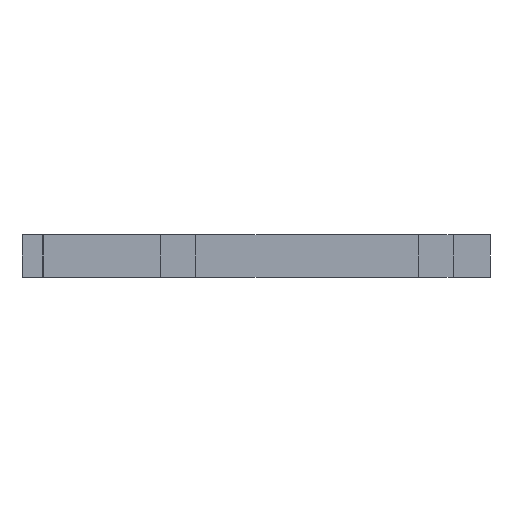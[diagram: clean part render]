
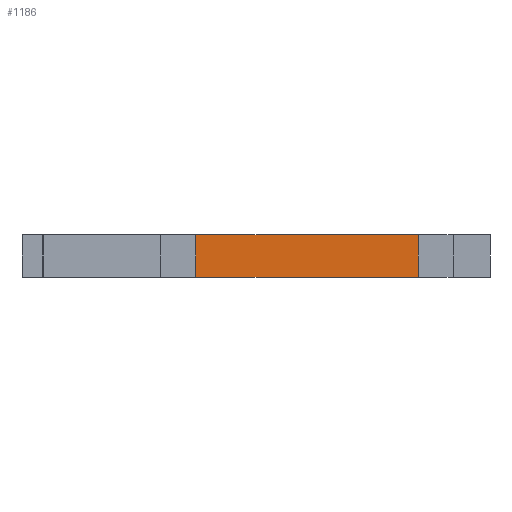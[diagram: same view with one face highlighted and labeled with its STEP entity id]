
A CAD part, left-side view. The second image highlights one B-rep face of the part: STEP entity #1186.
In plain terms, the highlighted planar face has unit normal (-1, 0, 0).
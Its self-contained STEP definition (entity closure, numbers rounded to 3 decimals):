
#5 = FACE_OUTER_BOUND ( 'NONE', #557, .T. ) ;
#18 = EDGE_CURVE ( 'NONE', #503, #1387, #204, .T. ) ;
#204 = LINE ( 'NONE', #263, #1105 ) ;
#233 = VECTOR ( 'NONE', #1663, 1000. ) ;
#261 = VECTOR ( 'NONE', #1221, 1000. ) ;
#263 = CARTESIAN_POINT ( 'NONE',  ( -386.5, -40.5, 10. ) ) ;
#289 = CARTESIAN_POINT ( 'NONE',  ( -386.5, -92.3, 0. ) ) ;
#357 = CARTESIAN_POINT ( 'NONE',  ( -386.5, -92.3, 0. ) ) ;
#389 = LINE ( 'NONE', #525, #261 ) ;
#489 = DIRECTION ( 'NONE',  ( 0., -1., 0. ) ) ;
#491 = CARTESIAN_POINT ( 'NONE',  ( -386.5, -40.5, 0. ) ) ;
#503 = VERTEX_POINT ( 'NONE', #690 ) ;
#525 = CARTESIAN_POINT ( 'NONE',  ( -386.5, -92.3, 10. ) ) ;
#557 = EDGE_LOOP ( 'NONE', ( #786, #1087, #1192, #1657 ) ) ;
#619 = PLANE ( 'NONE',  #814 ) ;
#690 = CARTESIAN_POINT ( 'NONE',  ( -386.5, -40.5, 10. ) ) ;
#704 = LINE ( 'NONE', #357, #1429 ) ;
#745 = VERTEX_POINT ( 'NONE', #757 ) ;
#757 = CARTESIAN_POINT ( 'NONE',  ( -386.5, -92.3, 10. ) ) ;
#786 = ORIENTED_EDGE ( 'NONE', *, *, #1440, .T. ) ;
#814 = AXIS2_PLACEMENT_3D ( 'NONE', #1569, #1577, #1730 ) ;
#954 = EDGE_CURVE ( 'NONE', #503, #745, #1383, .T. ) ;
#996 = VERTEX_POINT ( 'NONE', #289 ) ;
#1087 = ORIENTED_EDGE ( 'NONE', *, *, #1580, .F. ) ;
#1105 = VECTOR ( 'NONE', #1516, 1000. ) ;
#1186 = ADVANCED_FACE ( 'NONE', ( #5 ), #619, .F. ) ;
#1192 = ORIENTED_EDGE ( 'NONE', *, *, #954, .F. ) ;
#1221 = DIRECTION ( 'NONE',  ( 0., 0., -1. ) ) ;
#1383 = LINE ( 'NONE', #1510, #233 ) ;
#1387 = VERTEX_POINT ( 'NONE', #491 ) ;
#1429 = VECTOR ( 'NONE', #489, 1000. ) ;
#1440 = EDGE_CURVE ( 'NONE', #1387, #996, #704, .T. ) ;
#1510 = CARTESIAN_POINT ( 'NONE',  ( -386.5, -92.3, 10. ) ) ;
#1516 = DIRECTION ( 'NONE',  ( 0., 0., -1. ) ) ;
#1569 = CARTESIAN_POINT ( 'NONE',  ( -386.5, -92.3, 10. ) ) ;
#1577 = DIRECTION ( 'NONE',  ( 1., 0., 0. ) ) ;
#1580 = EDGE_CURVE ( 'NONE', #745, #996, #389, .T. ) ;
#1657 = ORIENTED_EDGE ( 'NONE', *, *, #18, .T. ) ;
#1663 = DIRECTION ( 'NONE',  ( 0., -1., 0. ) ) ;
#1730 = DIRECTION ( 'NONE',  ( 0., 0., -1. ) ) ;
